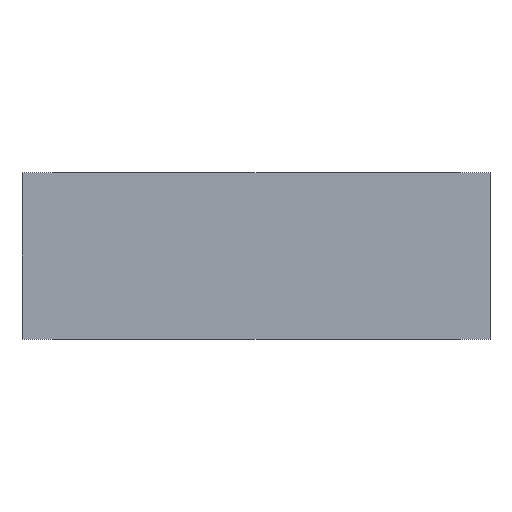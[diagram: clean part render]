
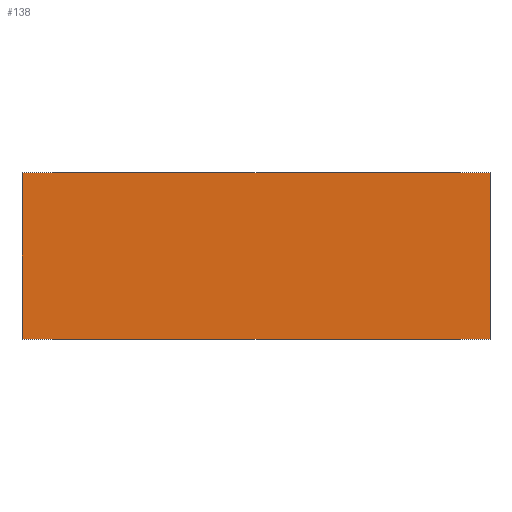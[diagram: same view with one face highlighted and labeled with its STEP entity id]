
A CAD part, front view. The second image highlights one B-rep face of the part: STEP entity #138.
In plain terms, the highlighted planar face has unit normal (0, -1, 0).
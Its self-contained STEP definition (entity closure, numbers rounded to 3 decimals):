
#42 = VECTOR ( 'NONE', #305, 1000. ) ;
#43 = LINE ( 'NONE', #307, #42 ) ;
#44 = VECTOR ( 'NONE', #308, 1000. ) ;
#45 = LINE ( 'NONE', #309, #44 ) ;
#56 = VECTOR ( 'NONE', #324, 1000. ) ;
#58 = LINE ( 'NONE', #328, #56 ) ;
#84 = VECTOR ( 'NONE', #224, 1000. ) ;
#117 = LINE ( 'NONE', #269, #84 ) ;
#138 = ADVANCED_FACE ( 'NONE', ( #699 ), #485, .F. ) ;
#186 = VERTEX_POINT ( 'NONE', #538 ) ;
#194 = VERTEX_POINT ( 'NONE', #528 ) ;
#224 = DIRECTION ( 'NONE',  ( 1., 0., 0. ) ) ;
#234 = CARTESIAN_POINT ( 'NONE',  ( -91.5, 0., 0. ) ) ;
#240 = CARTESIAN_POINT ( 'NONE',  ( 91.5, 0., 0. ) ) ;
#269 = CARTESIAN_POINT ( 'NONE',  ( -91.5, 0., 65. ) ) ;
#305 = DIRECTION ( 'NONE',  ( 0., 0., -1. ) ) ;
#307 = CARTESIAN_POINT ( 'NONE',  ( -91.5, 0., 65. ) ) ;
#308 = DIRECTION ( 'NONE',  ( 0., 0., -1. ) ) ;
#309 = CARTESIAN_POINT ( 'NONE',  ( 91.5, 0., 65. ) ) ;
#324 = DIRECTION ( 'NONE',  ( 1., 0., 0. ) ) ;
#328 = CARTESIAN_POINT ( 'NONE',  ( -91.5, 0., 0. ) ) ;
#329 = AXIS2_PLACEMENT_3D ( 'NONE', #472, #441, #436 ) ;
#379 = EDGE_CURVE ( 'NONE', #186, #194, #117, .T. ) ;
#388 = EDGE_CURVE ( 'NONE', #620, #435, #58, .T. ) ;
#395 = EDGE_CURVE ( 'NONE', #194, #435, #45, .T. ) ;
#396 = EDGE_CURVE ( 'NONE', #186, #620, #43, .T. ) ;
#435 = VERTEX_POINT ( 'NONE', #240 ) ;
#436 = DIRECTION ( 'NONE',  ( -1., 0., 0. ) ) ;
#441 = DIRECTION ( 'NONE',  ( 0., 1., 0. ) ) ;
#472 = CARTESIAN_POINT ( 'NONE',  ( -91.5, 0., 65. ) ) ;
#485 = PLANE ( 'NONE',  #329 ) ;
#528 = CARTESIAN_POINT ( 'NONE',  ( 91.5, 0., 65. ) ) ;
#538 = CARTESIAN_POINT ( 'NONE',  ( -91.5, 0., 65. ) ) ;
#620 = VERTEX_POINT ( 'NONE', #234 ) ;
#699 = FACE_OUTER_BOUND ( 'NONE', #861, .T. ) ;
#728 = ORIENTED_EDGE ( 'NONE', *, *, #396, .T. ) ;
#729 = ORIENTED_EDGE ( 'NONE', *, *, #379, .F. ) ;
#730 = ORIENTED_EDGE ( 'NONE', *, *, #395, .F. ) ;
#731 = ORIENTED_EDGE ( 'NONE', *, *, #388, .T. ) ;
#861 = EDGE_LOOP ( 'NONE', ( #731, #730, #729, #728 ) ) ;
